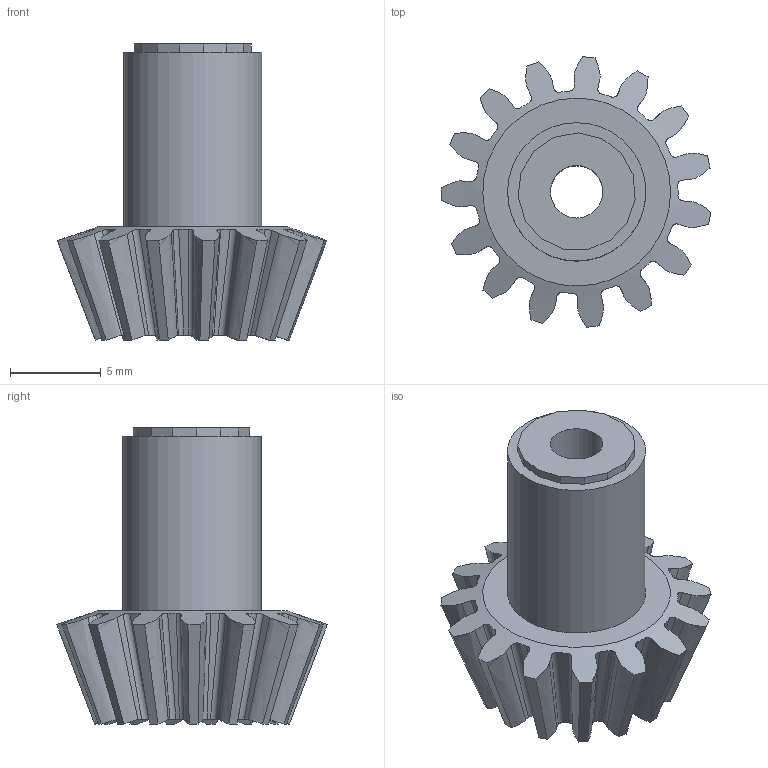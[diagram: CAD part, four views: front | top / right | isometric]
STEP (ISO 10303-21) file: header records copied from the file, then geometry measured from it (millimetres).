
FILE_DESCRIPTION(/* description */ ('STEP AP242 Edition 2','CAx-IF Rec.Pracs.---Representation and Presentation of Product Manufacturing Information (PMI)---4.0---2014-10-13','CAx-IF Rec.Pracs.---3D Tessellated Geometry---0.4---2014-09-14','2;1','CAx-IF Rec.Pracs.---User Defined Attributes---1.5---2016-08-15'),/* implementation_level */ '2;1');
FILE_NAME(/* name */ 'Main - Bevel Gear, 1545',/* time_stamp */ '2026-09-13T15:49:57Z',/* author */ (''),/* organization */ (''),/* preprocessor_version */ 'ST-DEVELOPER v20',/* originating_system */ 'ONSHAPE BY PTC INC, 1.220',/* authorisation */ ' ');
FILE_SCHEMA (('AP242_MANAGED_MODEL_BASED_3D_ENGINEERING_MIM_LF { 1 0 10303 442 3 1 4 }'));
Length unit declared in the file: metre
Products named in the file (1): Bevel Gear, 1545
Bounding box: 14.86 x 14.92 x 16.32 mm (x, y, z)
Volume: 851.3 mm3; surface area: 1056.1 mm2
Topology: 1 solids, 1 shells, 159 faces, 523 edges, 369 vertices
Faces by surface type: plane 50, bspline 45, cylinder 33, cone 31
Full cylindrical faces by diameter (mm): 2.891 x1, 5.715 x1, 7.62 x1
Entity records: 9239 total; most frequent: CARTESIAN_POINT 4935, ORIENTED_EDGE 1034, DIRECTION 709, EDGE_CURVE 517, VERTEX_POINT 367, LINE 251, VECTOR 251, AXIS2_PLACEMENT_3D 229
